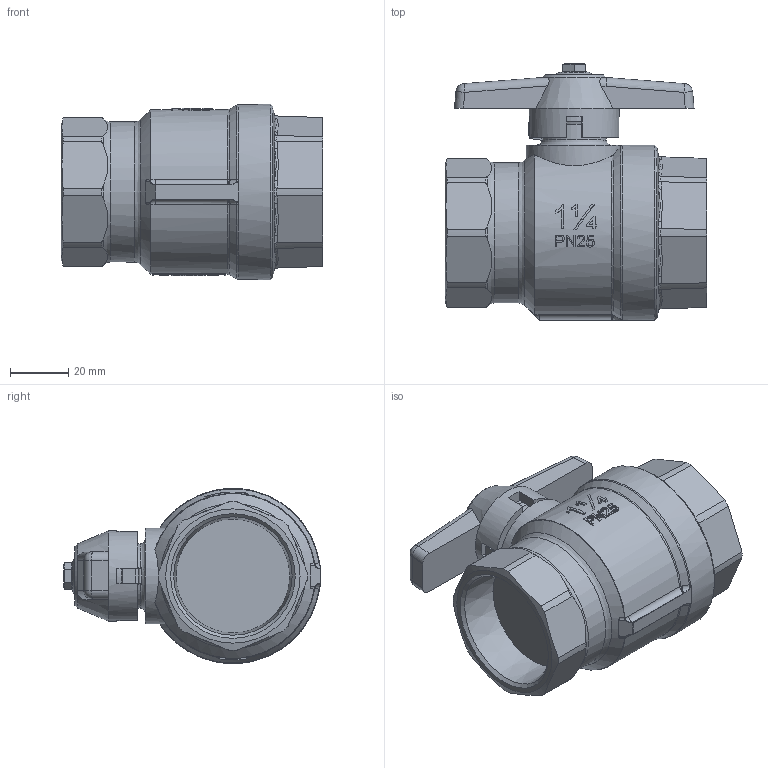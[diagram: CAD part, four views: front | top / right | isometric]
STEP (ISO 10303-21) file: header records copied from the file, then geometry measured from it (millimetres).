
FILE_DESCRIPTION((''),'2;1');
FILE_NAME('P:\Fastrack\53972_CRANE 3D\Ball Valves\Workplace\Crane Ball Valves\D171TH_1 1-4in\D171TH_1 1-4in.stp','2011-02-14T16:48:02',('btaylor'),(''),'Autodesk Inventor 2008','Autodesk Inventor 2008','');
FILE_SCHEMA(('AUTOMOTIVE_DESIGN { 1 0 10303 214 1 1 1 1 }'));
Length unit declared in the file: millimetre
Products named in the file (1): D171TH_1 1-4in
Bounding box: 89.63 x 88 x 60 mm (x, y, z)
Volume: 191984.3 mm3; surface area: 29674.1 mm2
Topology: 1 solids, 5 shells, 476 faces, 1224 edges, 783 vertices
Faces by surface type: plane 198, bspline 160, cylinder 70, cone 30, torus 14, sphere 4
Full cylindrical faces by diameter (mm): 14.2 x1, 23.5 x1, 31 x1, 32.798 x1, 48 x1, 60 x1
Entity records: 36728 total; most frequent: CARTESIAN_POINT 26037, ORIENTED_EDGE 2390, DIRECTION 1645, EDGE_CURVE 1195, VERTEX_POINT 775, AXIS2_PLACEMENT_3D 609, EDGE_LOOP 522, FACE_OUTER_BOUND 476
